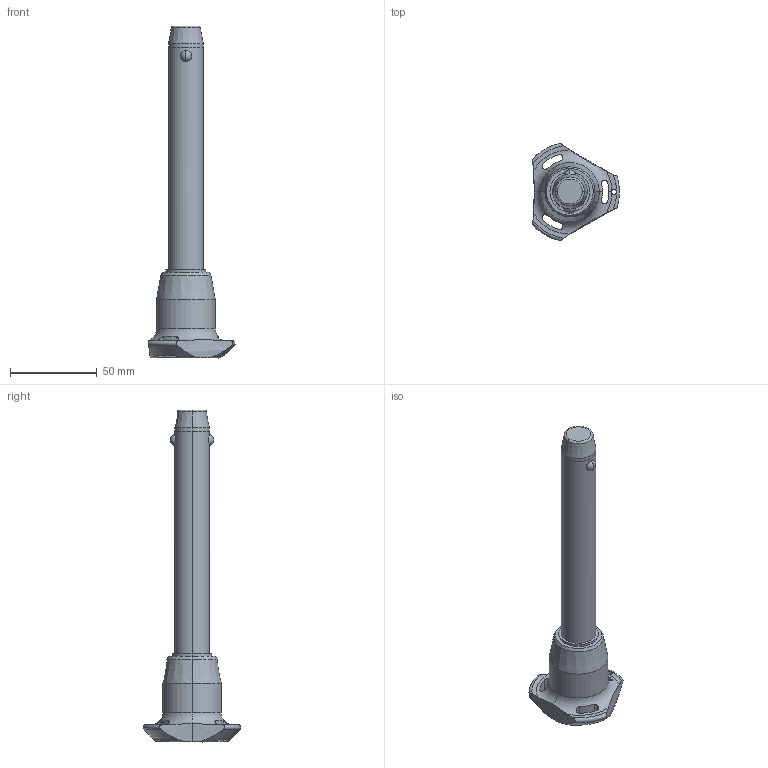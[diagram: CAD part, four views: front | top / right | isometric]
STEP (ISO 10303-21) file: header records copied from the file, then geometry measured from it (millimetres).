
FILE_DESCRIPTION (( 'STEP AP203' ), '1' );
FILE_NAME ('QR1726.M20-120-T.step', '2025-11-13T11:26:05', ( '' ), ( '' ), 'SwSTEP 2.0', 'SolidWorks 2019', '' );
FILE_SCHEMA (( 'CONFIG_CONTROL_DESIGN' ));
Length unit declared in the file: millimetre
Products named in the file (1): QR1726.M20-120-T
Bounding box: 50.04 x 56.02 x 191.2 mm (x, y, z)
Volume: 91474.8 mm3; surface area: 18507.5 mm2
Topology: 1 solids, 1 shells, 68 faces, 182 edges, 115 vertices
Faces by surface type: cylinder 32, cone 14, torus 11, sphere 6, plane 5
Entity records: 2938 total; most frequent: CARTESIAN_POINT 1192, ORIENTED_EDGE 364, DIRECTION 345, EDGE_CURVE 182, AXIS2_PLACEMENT_3D 154, VERTEX_POINT 115, CIRCLE 85, EDGE_LOOP 75
